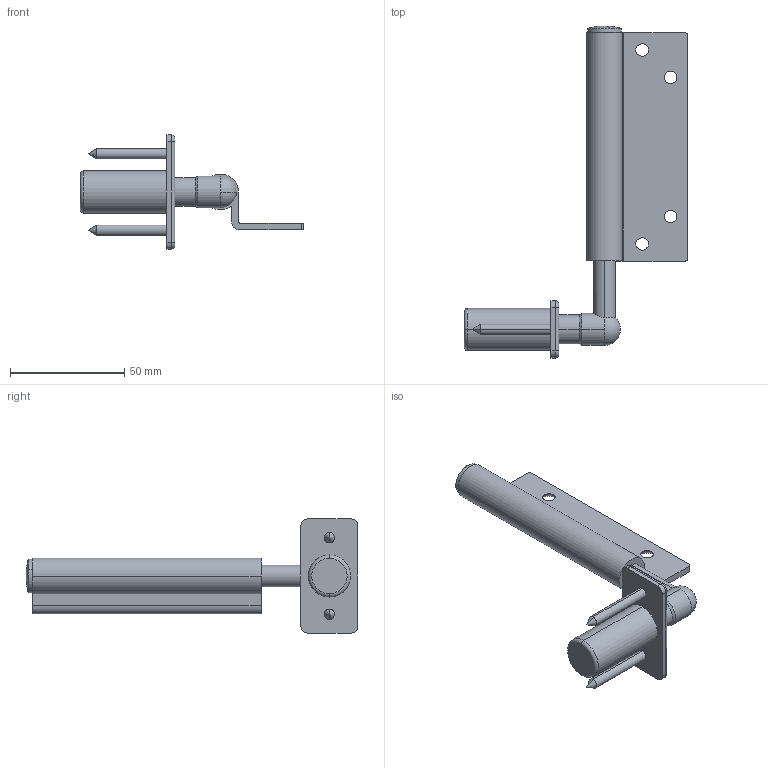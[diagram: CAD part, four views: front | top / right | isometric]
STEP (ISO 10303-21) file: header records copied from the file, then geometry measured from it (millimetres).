
FILE_DESCRIPTION (( 'STEP AP214' ), '1' );
FILE_NAME ('E3 Wall Pivot Left - Open.STEP', '2024-06-26T01:05:48', ( '' ), ( '' ), 'SwSTEP 2.0', 'SolidWorks 2023', '' );
FILE_SCHEMA (( 'AUTOMOTIVE_DESIGN' ));
Length unit declared in the file: millimetre
Products named in the file (4): E3 Wall Pivot Left - Open; E3 Wall Pivot Body^E3 Wall Pivot; E3 Hinge Cap^E3 Wall Pivot; E3 Offset Flap^E3 Wall Pivot
Assembly tree (3 placements, depth 2):
  E3 Wall Pivot Left - Open
    E3 Wall Pivot Body^E3 Wall Pivot
    E3 Offset Flap^E3 Wall Pivot
    E3 Hinge Cap^E3 Wall Pivot
Bounding box: 98 x 145.5 x 50 mm (x, y, z)
Volume: 50583.1 mm3; surface area: 27015.7 mm2
Topology: 3 solids, 3 shells, 120 faces, 274 edges, 168 vertices
Faces by surface type: cylinder 46, plane 46, cone 18, torus 6, sphere 4
Entity records: 3536 total; most frequent: DIRECTION 647, CARTESIAN_POINT 603, ORIENTED_EDGE 544, EDGE_CURVE 272, AXIS2_PLACEMENT_3D 250, VERTEX_POINT 168, VECTOR 147, LINE 147
